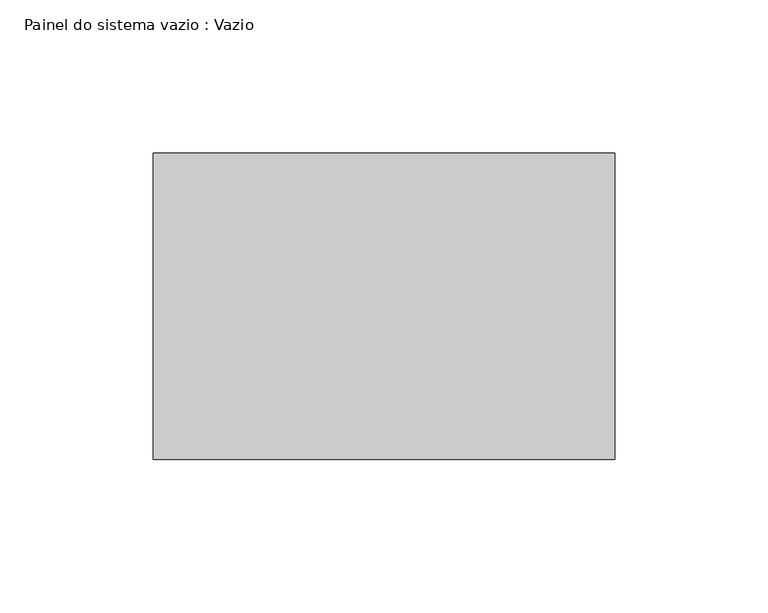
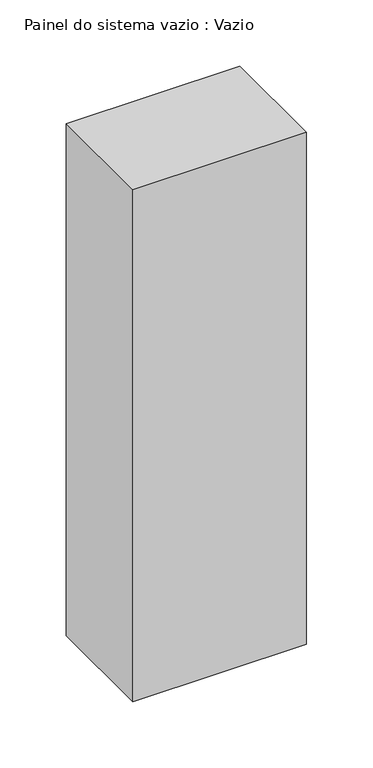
"""IFC4 building model written with IfcOpenShell, lengths in millimetres: plate geometry, Painel do sistema vazio : Vazio."""

from ifc_helpers import new_model, si_unit, origin, origin_with_axes, place, context, project, spatial, polyline, outline, extrude, source, transform, mapped, element, save


def painel_do_sistema_vazio_vazio_800e51c1(model_context):
    return source(origin(), model_context, "Body", "SweptSolid", [
        extrude(outline(polyline([(75.2388431, -50.0), (-75.2388431, -50.0), (-75.2388431, 50.0), (75.2388431, 50.0), (75.2388431, -50.0)])), origin_with_axes(), (0.0, 0.0, 1.0), 470.0),
    ])


if __name__ == "__main__":
    model = new_model("IFC4")
    model_context = context("Model", 3, world=origin())
    ifc_project = project(units=[si_unit("LENGTHUNIT", "METRE", prefix="MILLI")], contexts=[model_context])
    site = spatial("IfcSite", under=ifc_project)
    building = spatial("IfcBuilding", under=site)
    placement = place(None, origin())
    painel_do_sistema_vazio_vazio_shape = painel_do_sistema_vazio_vazio_800e51c1(model_context)
    element("IfcPlate", 1, ObjectType="Painel do sistema vazio : Vazio", at=placement, inside=building, context=model_context, shape_type="MappedRepresentation", body=[
        mapped(painel_do_sistema_vazio_vazio_shape, transform((0.0, 0.0, 0.0), x_axis=(1.0, 0.0, 0.0), y_axis=(0.0, 1.0, 0.0), z_axis=(0.0, 0.0, 1.0))),
    ])
    save(model, "model.ifc")
